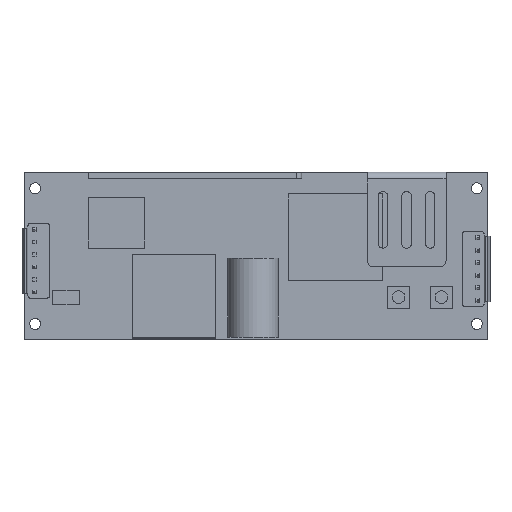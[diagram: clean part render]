
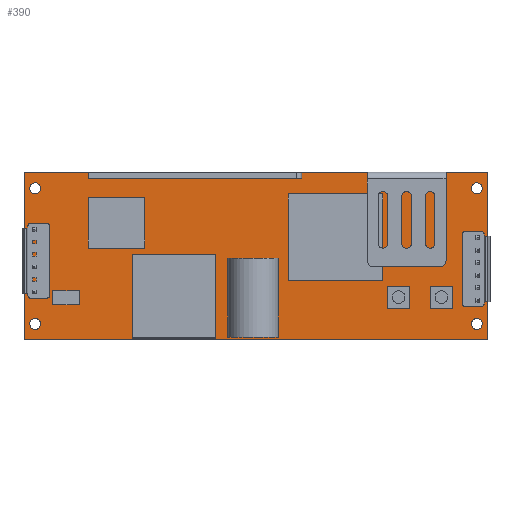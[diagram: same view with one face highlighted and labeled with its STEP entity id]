
A CAD part, top view. The second image highlights one B-rep face of the part: STEP entity #390.
In plain terms, the highlighted planar face has unit normal (0, 0, 1).
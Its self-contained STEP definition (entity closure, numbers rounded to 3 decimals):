
#123=CARTESIAN_POINT('',(128.393,-0.228,0.0));
#124=VERTEX_POINT('',#123);
#125=CARTESIAN_POINT('',(126.643,-0.228,0.0));
#126=DIRECTION('',(0.0,0.0,-1.0));
#127=DIRECTION('',(-1.0,0.0,0.0));
#128=AXIS2_PLACEMENT_3D('',#125,#126,#127);
#129=CIRCLE('',#128,1.75);
#130=EDGE_CURVE('',#124,#124,#129,.T.);
#151=CARTESIAN_POINT('',(128.393,42.772,0.0));
#152=VERTEX_POINT('',#151);
#153=CARTESIAN_POINT('',(126.643,42.772,0.0));
#154=DIRECTION('',(0.0,0.0,-1.0));
#155=DIRECTION('',(-1.0,0.0,0.0));
#156=AXIS2_PLACEMENT_3D('',#153,#154,#155);
#157=CIRCLE('',#156,1.75);
#158=EDGE_CURVE('',#152,#152,#157,.T.);
#179=CARTESIAN_POINT('',(-11.607,-0.228,0.0));
#180=VERTEX_POINT('',#179);
#181=CARTESIAN_POINT('',(-13.357,-0.228,0.0));
#182=DIRECTION('',(0.0,0.0,-1.0));
#183=DIRECTION('',(-1.0,0.0,0.0));
#184=AXIS2_PLACEMENT_3D('',#181,#182,#183);
#185=CIRCLE('',#184,1.75);
#186=EDGE_CURVE('',#180,#180,#185,.T.);
#207=CARTESIAN_POINT('',(-11.607,42.772,0.0));
#208=VERTEX_POINT('',#207);
#209=CARTESIAN_POINT('',(-13.357,42.772,0.0));
#210=DIRECTION('',(0.0,0.0,-1.0));
#211=DIRECTION('',(-1.0,0.0,0.0));
#212=AXIS2_PLACEMENT_3D('',#209,#210,#211);
#213=CIRCLE('',#212,1.75);
#214=EDGE_CURVE('',#208,#208,#213,.T.);
#234=CARTESIAN_POINT('',(130.143,47.772,0.0));
#235=VERTEX_POINT('',#234);
#242=CARTESIAN_POINT('',(130.143,-5.228,0.0));
#243=VERTEX_POINT('',#242);
#244=CARTESIAN_POINT('',(130.143,-5.228,0.0));
#245=DIRECTION('',(0.0,1.0,0.0));
#246=VECTOR('',#245,53.);
#247=LINE('',#244,#246);
#248=EDGE_CURVE('',#243,#235,#247,.T.);
#272=CARTESIAN_POINT('',(-16.857,47.772,0.0));
#273=VERTEX_POINT('',#272);
#280=CARTESIAN_POINT('',(130.143,47.772,0.0));
#281=DIRECTION('',(-1.0,0.0,0.0));
#282=VECTOR('',#281,147.);
#283=LINE('',#280,#282);
#284=EDGE_CURVE('',#235,#273,#283,.T.);
#303=CARTESIAN_POINT('',(-16.857,-5.228,0.0));
#304=VERTEX_POINT('',#303);
#311=CARTESIAN_POINT('',(-16.857,47.772,0.0));
#312=DIRECTION('',(0.0,-1.0,0.0));
#313=VECTOR('',#312,53.);
#314=LINE('',#311,#313);
#315=EDGE_CURVE('',#273,#304,#314,.T.);
#333=CARTESIAN_POINT('',(-16.857,-5.228,0.0));
#334=DIRECTION('',(1.0,0.0,0.0));
#335=VECTOR('',#334,147.);
#336=LINE('',#333,#335);
#337=EDGE_CURVE('',#304,#243,#336,.T.);
#367=CARTESIAN_POINT('',(56.643,21.272,0.0));
#368=DIRECTION('',(0.0,0.0,1.0));
#369=DIRECTION('',(1.0,0.0,0.0));
#370=AXIS2_PLACEMENT_3D('',#367,#368,#369);
#371=PLANE('',#370);
#372=ORIENTED_EDGE('',*,*,#337,.T.);
#373=ORIENTED_EDGE('',*,*,#248,.T.);
#374=ORIENTED_EDGE('',*,*,#284,.T.);
#375=ORIENTED_EDGE('',*,*,#315,.T.);
#376=EDGE_LOOP('',(#372,#373,#374,#375));
#377=FACE_OUTER_BOUND('',#376,.T.);
#378=ORIENTED_EDGE('',*,*,#130,.T.);
#379=EDGE_LOOP('',(#378));
#380=FACE_BOUND('',#379,.T.);
#381=ORIENTED_EDGE('',*,*,#158,.T.);
#382=EDGE_LOOP('',(#381));
#383=FACE_BOUND('',#382,.T.);
#384=ORIENTED_EDGE('',*,*,#186,.T.);
#385=EDGE_LOOP('',(#384));
#386=FACE_BOUND('',#385,.T.);
#387=ORIENTED_EDGE('',*,*,#214,.T.);
#388=EDGE_LOOP('',(#387));
#389=FACE_BOUND('',#388,.T.);
#390=ADVANCED_FACE('',(#377,#380,#383,#386,#389),#371,.T.);
